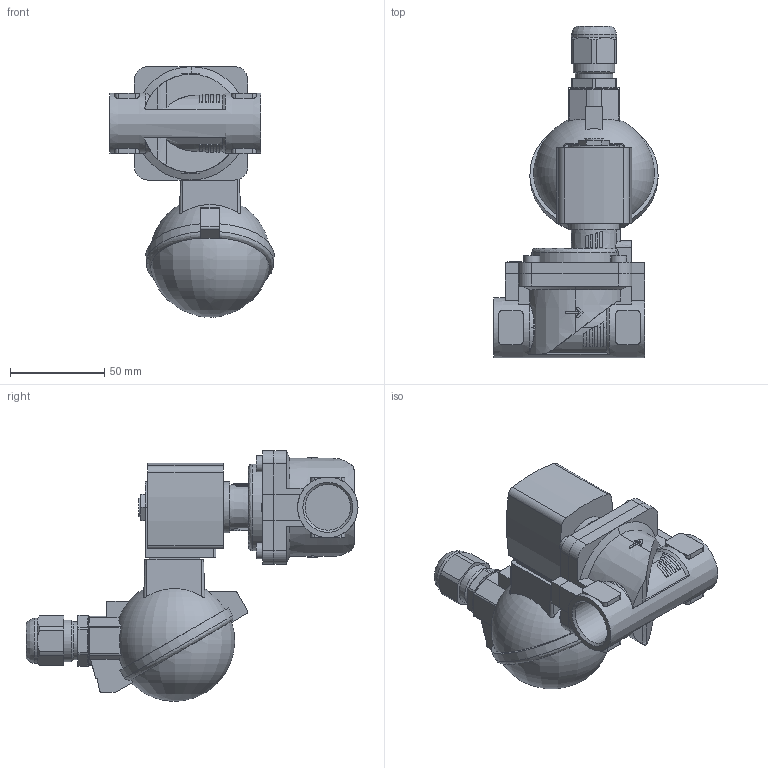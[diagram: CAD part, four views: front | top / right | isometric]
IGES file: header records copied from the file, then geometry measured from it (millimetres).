
Start section: Data from Parasolid IGES Translator 26.0.171, Copyright(c) 2006 Siemens PLM Software. All Rights Reserved.
Global section: file name: 6281-373255-2_2-Way_Solenoid_Valve__Servo-assisted__General_Purpose.igs; native system: By Siemens PLM Incorporated; preprocessor: XPlus GENERIC/IGES 26.0.171; author: Noname; organization: Noname; date: 20240820.215603; units: millimetre
Bounding box: 86.93 x 175.8 x 132.7 mm (x, y, z)
Surface area: 66455.6 mm2 (no closed solid volume)
Topology: 0 solids, 0 shells, 411 faces, 2181 edges, 2163 vertices
Faces by surface type: extrusion 240, revolution 171
